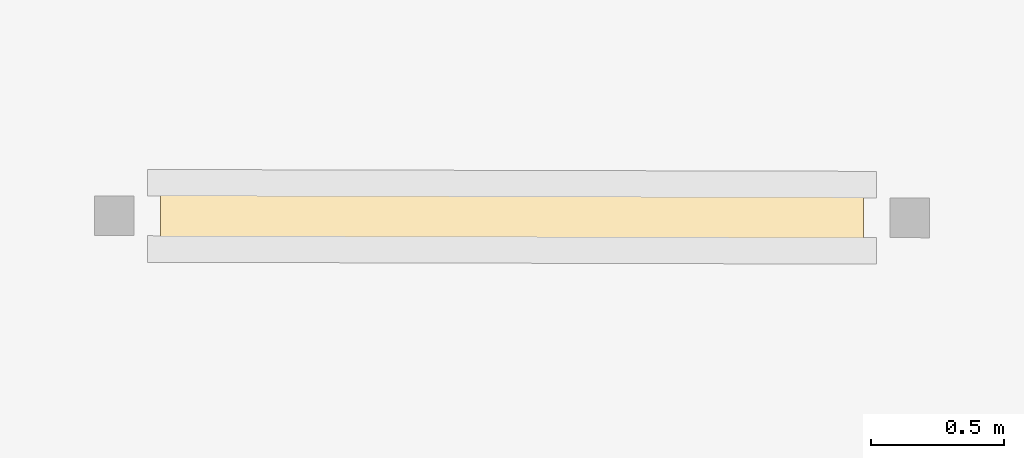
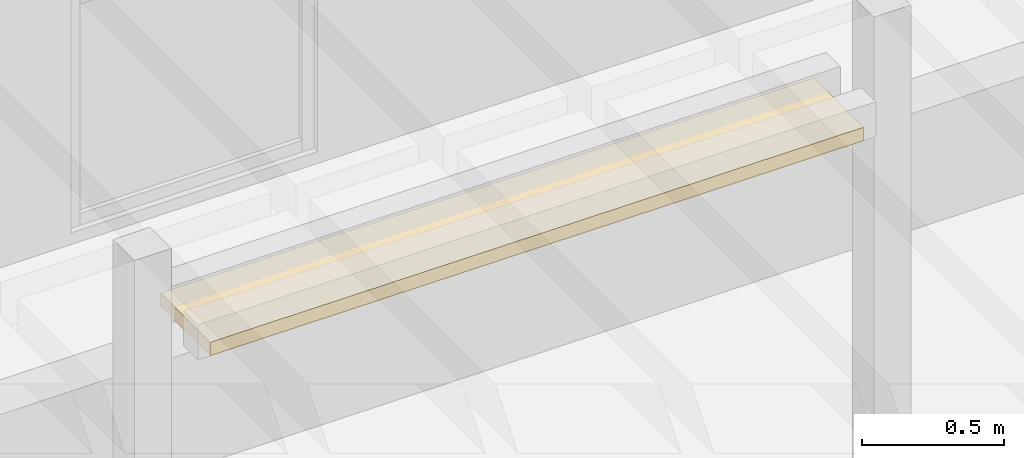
# One storey, part 21 of 24: 1 covering.
"""IFC2X3 building model written with IfcOpenShell, lengths in metres."""

from ifc_helpers import new_model, entity, si_unit, converted_unit, derived_unit, direction, frame, frame_2d, origin, place, context, subcontext, project, spatial, rectangle, extrude, material, layer, layer_set, layer_usage, type_object, element, save


model = new_model("IFC2X3")

# Units and contexts
model_context = context("Model", 3, precision=1e-05, world=origin(), true_north=direction((6.123233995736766e-17, 1.0)))
body_context = subcontext(model_context, "Body", "Model", "MODEL_VIEW")
ifc_project = project(units=[si_unit("LENGTHUNIT", "METRE"), si_unit("AREAUNIT", "SQUARE_METRE"), converted_unit("PLANEANGLEUNIT", "DEGREE", entity("IfcPlaneAngleMeasure", 0.017453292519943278), si_unit("PLANEANGLEUNIT", "RADIAN"), dimensions=[0, 0, 0, 0, 0, 0, 0]), derived_unit("THERMALTRANSMITTANCEUNIT", [(si_unit("MASSUNIT", "GRAM", prefix="KILO"), 1), (si_unit("THERMODYNAMICTEMPERATUREUNIT", "KELVIN"), -1), (si_unit("TIMEUNIT", "SECOND"), -3)])], contexts=[model_context])

# Site, building, storey
site_placement = place(None, frame((1253.6752467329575, 2072.143113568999, 91.49999999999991), z_axis=(0.0, 0.0, 1.0), x_axis=(0.7237211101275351, 0.6900925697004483, 0.0)))
site = spatial("IfcSite", under=ifc_project, at=site_placement, Name="Surface", CompositionType="ELEMENT")
building_placement = place(site_placement, origin())
building = spatial("IfcBuilding", under=site, at=building_placement, CompositionType="ELEMENT")
storey_placement = place(building_placement, frame((0.0, 0.0, -7.049999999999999)))
storey = spatial("IfcBuildingStorey", under=building, at=storey_placement, Name="R-1", CompositionType="ELEMENT", Elevation=-7.049999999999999)

# Covering
ifc_material_1 = material(Name="Faux-plafond - Trame 600 x 600")
ifc_layer_1 = layer(ifc_material_1, 0.04)
ifc_material_2 = material(Name="OMD_Cloison 100mm CF1h")
ifc_layer_2 = layer(ifc_material_2, 0.018)
ifc_layer_set = layer_set([ifc_layer_1, ifc_layer_2], Name="Plafond composé:plafond cf 1h")
ifc_layer_usage = layer_usage(ifc_layer_set, "AXIS3", "NEGATIVE", 0.057999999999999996)
covering_type = type_object("IfcCoveringType", Name="Plafond composé:plafond cf 1h", PredefinedType="CEILING")
covering_placement = place(storey_placement, frame((176.44669938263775, 5.750387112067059, 1.9499999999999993)))
element("IfcCovering", 1, at=covering_placement, inside=storey, type_object=covering_type, material=ifc_layer_usage, Name="Plafond composé:plafond cf 1h", ObjectType="Plafond composé:plafond cf 1h", PredefinedType="CEILING", context=body_context, shape_type="SweptSolid", body=[
    extrude(rectangle(XDim=2.6500000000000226, YDim=0.34999999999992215, at=frame_2d((1.2212453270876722e-15, -1.1796119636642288e-15), x_axis=(1.0, 0.0))), frame((1.0776411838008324, 1.0432035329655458, 0.0), z_axis=(0.0, 0.0, 1.0), x_axis=(-0.7219211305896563, 0.6919753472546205, 0.0)), (0.0, 0.0, 1.0), 0.05799999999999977),
])

save(model, "model.ifc")
